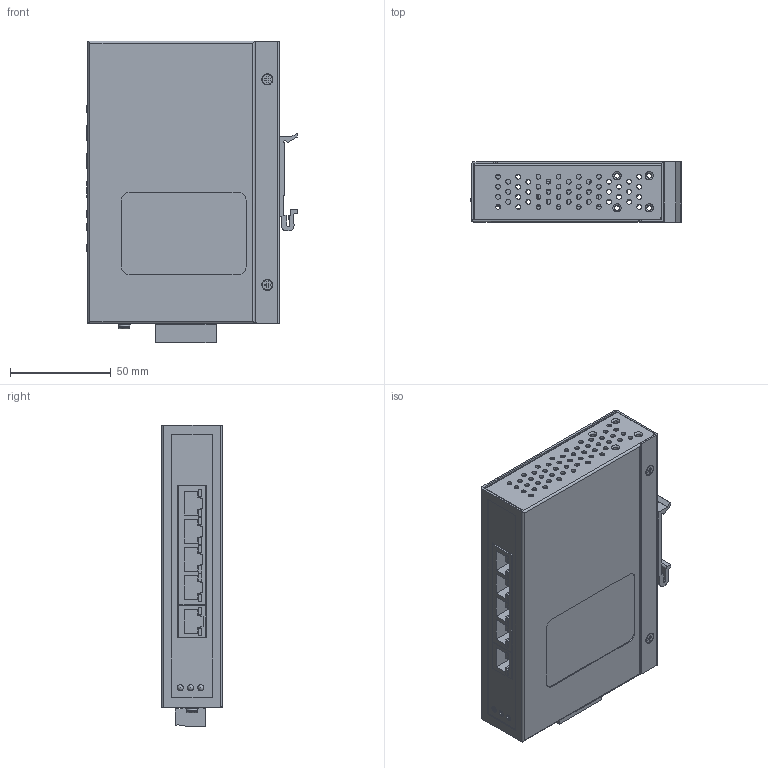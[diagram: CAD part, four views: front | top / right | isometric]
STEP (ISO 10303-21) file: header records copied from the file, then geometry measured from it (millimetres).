
FILE_DESCRIPTION(/* description */ ('STEP AP242','CAx-IF Rec.Pracs.---Representation and Presentation of Product Manufacturing Information (PMI)---4.0---2014-10-13','CAx-IF Rec.Pracs.---3D Tessellated Geometry---0.4---2014-09-14','2;1'),/* implementation_level */ '2;1');
FILE_NAME(/* name */ '6851afc637c2e845b35bea06',/* time_stamp */ '2025-06-17T18:11:20Z',/* author */ (''),/* organization */ (''),/* preprocessor_version */ 'ST-DEVELOPER v20',/* originating_system */ 'ONSHAPE BY PTC INC, 1.199',/* authorisation */ ' ');
FILE_SCHEMA (('AP242_MANAGED_MODEL_BASED_3D_ENGINEERING_MIM_LF { 1 0 10303 442 1 1 4 }'));
Length unit declared in the file: metre
Products named in the file (27): ETH-5G-1; Connector-06; LED; Connector - 4 port; Connector-09; Socket; Screw-6; Connector-05; Connector-02; Screw-1; Screw-4; Connector--13; Screw-2; Connector-11; Connector-01; Connector-12; Connector-08; Screw-3; Connector-07; Connector-10; Rear Cover; DIN Clip; Connector-04; Housing; Screw-5; Connector - Single; Connector-03
Assembly tree (26 placements, depth 2):
  ETH-5G-1
    Connector-06
    LED
    Connector - 4 port
    Connector-09
    Socket
    Screw-6
    Connector-05
    Connector-02
    Screw-1
    Screw-4
    Connector--13
    Screw-2
    Connector-11
    Connector-01
    Connector-12
    Connector-08
    Screw-3
    Connector-07
    Connector-10
    Rear Cover
    DIN Clip
    Connector-04
    Housing
    Screw-5
    Connector - Single
    Connector-03
Bounding box: 104.3 x 30 x 149.77 mm (x, y, z)
Volume: 64455.4 mm3; surface area: 104589.8 mm2
Topology: 13 solids, 26 shells, 1549 faces, 4093 edges, 2670 vertices
Faces by surface type: plane 936, cylinder 463, torus 88, sphere 33, cone 27, bspline 2
Full cylindrical faces by diameter (mm): 0.5 x6, 0.609 x1, 1.4 x6, 1.5 x1, 2.4 x76, 2.5 x18, 2.8 x10, 2.9 x8, 3 x11, 3.5 x2, 3.783 x6, 4 x9, 4.1 x14, 5 x5, 5.4 x4, 5.5 x1
Entity records: 50397 total; most frequent: CARTESIAN_POINT 11815, DIRECTION 7933, ORIENTED_EDGE 7388, EDGE_CURVE 3762, AXIS2_PLACEMENT_3D 2704, VERTEX_POINT 2582, LINE 2525, VECTOR 2525
